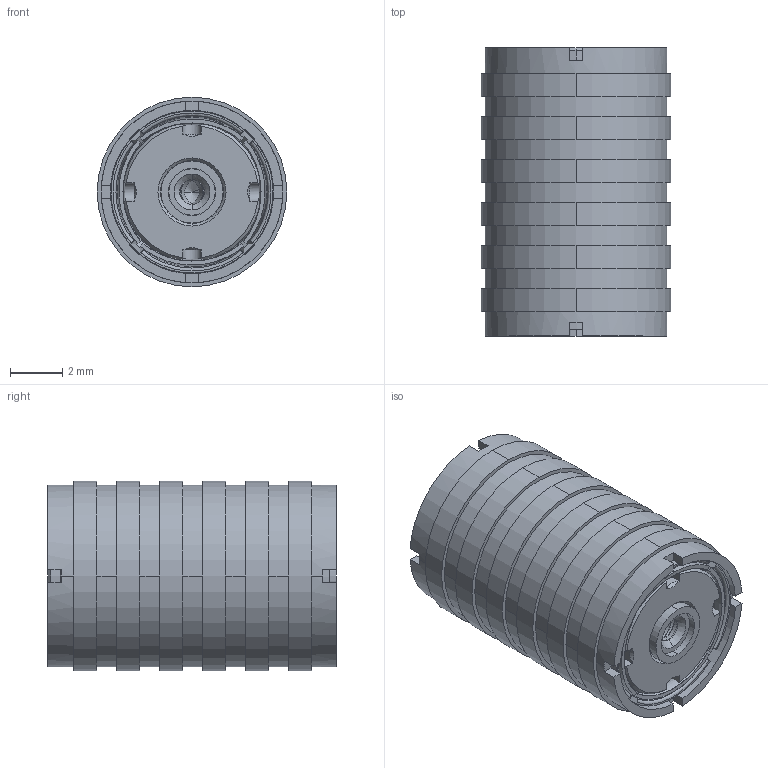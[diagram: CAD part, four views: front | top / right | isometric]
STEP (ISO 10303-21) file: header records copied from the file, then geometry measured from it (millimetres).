
FILE_DESCRIPTION((''),'2;1');
FILE_NAME('CONN_MMCX_ADAPT_100_RLV_ASM','2026-05-21T11:21:55',('mthomps2'),(''),'CREO PARAMETRIC BY PTC INC, 2022284','CREO PARAMETRIC BY PTC INC, 2022284','');
FILE_SCHEMA(('CONFIG_CONTROL_DESIGN','SHAPE_APPEARANCE_LAYERS_GROUPS'));
Length unit declared in the file: inch
Products named in the file (7): SHELL_CONN_MMCX_100_RLV; INSULATOR_CONTACT_MMCX_100_RLV; SOCKET_CONN_MMCX_100_RLV; SLEEVE_SOCKET_MMCX_100_RLV; SLEEVE_CONTACT_MMCX_100_RLV; SLEEVE_INSULATOR_MMCX_100_RLV; CONN_MMCX_ADAPT_100_RLV_ASM
Assembly tree (6 placements, depth 2):
  CONN_MMCX_ADAPT_100_RLV_ASM
    SHELL_CONN_MMCX_100_RLV
    INSULATOR_CONTACT_MMCX_100_RLV
    SOCKET_CONN_MMCX_100_RLV
    SLEEVE_SOCKET_MMCX_100_RLV
    SLEEVE_CONTACT_MMCX_100_RLV
    SLEEVE_INSULATOR_MMCX_100_RLV
Bounding box: 7.29 x 11.07 x 7.29 mm (x, y, z)
Volume: 378.5 mm3; surface area: 1543.4 mm2
Topology: 10 solids, 10 shells, 383 faces, 999 edges, 686 vertices
Faces by surface type: plane 145, cylinder 114, cone 56, extrusion 52, torus 12, bspline 4
Entity records: 18445 total; most frequent: CARTESIAN_POINT 3469, DIRECTION 1996, ORIENTED_EDGE 1920, PRESENTATION_STYLE_ASSIGNMENT 1323, STYLED_ITEM 1323, CURVE_STYLE 1039, EDGE_CURVE 960, AXIS2_PLACEMENT_3D 741
